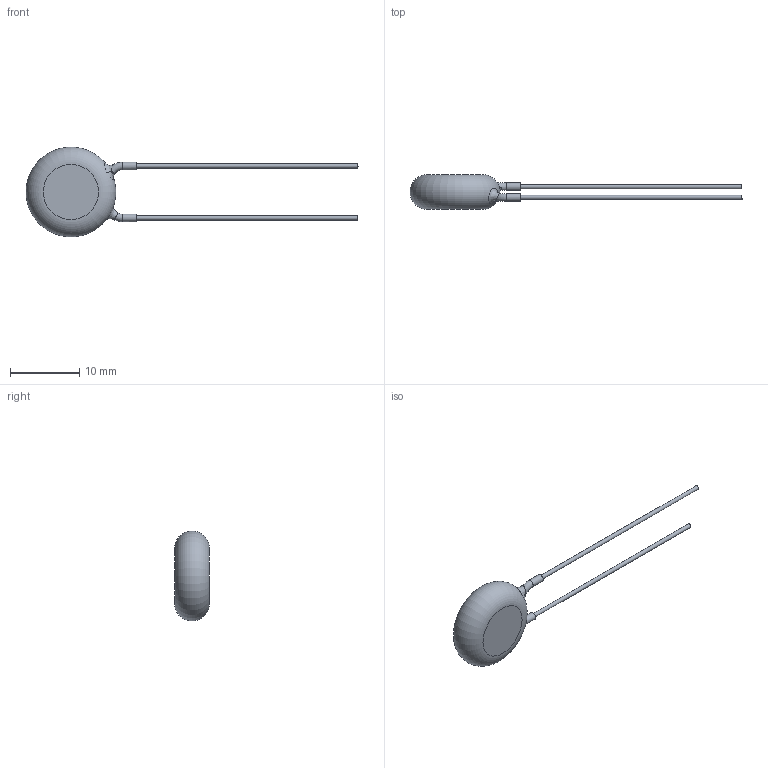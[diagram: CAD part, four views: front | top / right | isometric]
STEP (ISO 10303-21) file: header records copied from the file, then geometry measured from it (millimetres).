
FILE_DESCRIPTION((''),'2;1');
FILE_NAME('I:\Marketing\M6t1\3D-Models\Zchng-Werk-3\Upload for homepage\BCC\AY2\Y5U-7,5mm\AY2472M49Y5US63L7\AY2472M49Y5US63L7.stp','2015-09-09T08:48:26',(''),(''),'Autodesk Inventor 2013','Autodesk Inventor 2013','');
FILE_SCHEMA(('AUTOMOTIVE_DESIGN { 1 0 10303 214 1 1 1 1 }'));
Length unit declared in the file: centimetre
Products named in the file (1): AY2472M49Y5US63L7
Bounding box: 48 x 5 x 13 mm (x, y, z)
Volume: 590.5 mm3; surface area: 524.4 mm2
Topology: 1 solids, 1 shells, 19 faces, 35 edges, 22 vertices
Faces by surface type: cylinder 6, plane 6, bspline 4, torus 3
Full cylindrical faces by diameter (mm): 0.6 x2, 1.1 x2
Entity records: 731 total; most frequent: CARTESIAN_POINT 360, DIRECTION 64, ORIENTED_EDGE 48, AXIS2_PLACEMENT_3D 32, EDGE_LOOP 30, EDGE_CURVE 24, STYLED_ITEM 20, FACE_OUTER_BOUND 19
